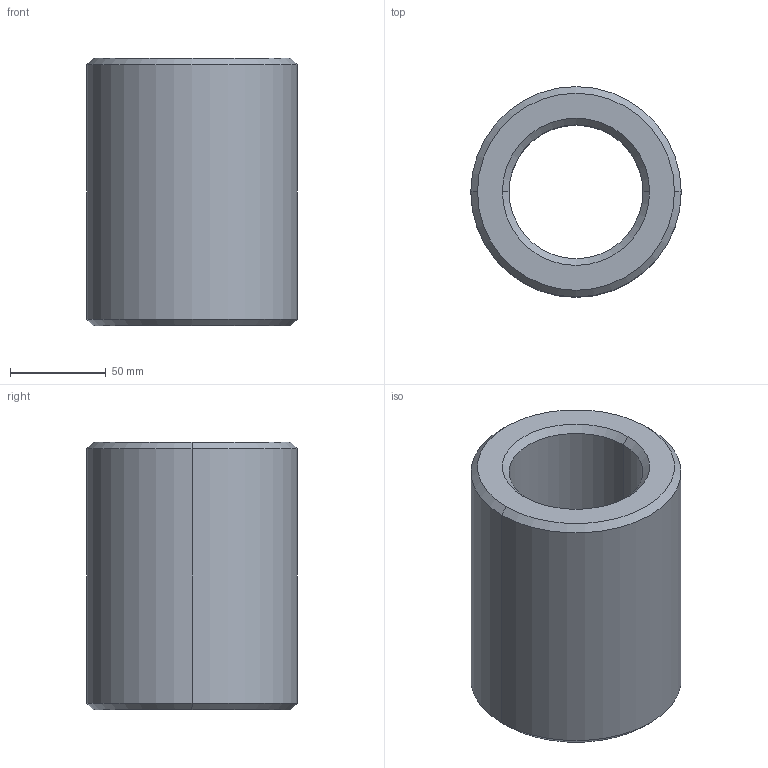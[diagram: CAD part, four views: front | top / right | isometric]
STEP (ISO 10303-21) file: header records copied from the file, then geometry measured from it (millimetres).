
FILE_DESCRIPTION (( 'STEP AP203' ), '1' );
FILE_NAME ('L1330.R70-10.step', '2024-10-24T09:30:04', ( '' ), ( '' ), 'SwSTEP 2.0', 'SolidWorks 2019', '' );
FILE_SCHEMA (( 'CONFIG_CONTROL_DESIGN' ));
Length unit declared in the file: millimetre
Products named in the file (1): L1330.R70-10
Bounding box: 110 x 110 x 140 mm (x, y, z)
Volume: 784754.1 mm3; surface area: 88159.1 mm2
Topology: 1 solids, 1 shells, 14 faces, 28 edges, 16 vertices
Faces by surface type: cone 8, cylinder 4, plane 2
Entity records: 445 total; most frequent: DIRECTION 74, CARTESIAN_POINT 59, ORIENTED_EDGE 56, AXIS2_PLACEMENT_3D 31, EDGE_CURVE 28, VERTEX_POINT 16, CIRCLE 16, EDGE_LOOP 16
